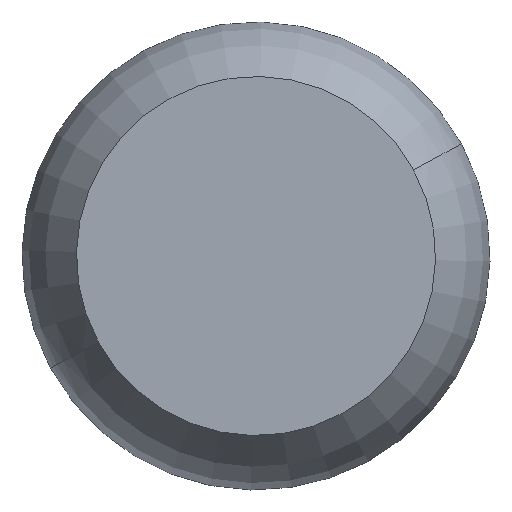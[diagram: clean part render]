
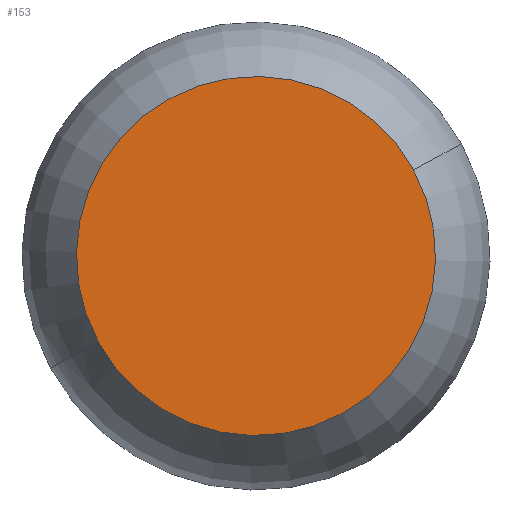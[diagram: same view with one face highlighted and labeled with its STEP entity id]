
A CAD part, front view. The second image highlights one B-rep face of the part: STEP entity #153.
In plain terms, the highlighted planar face has unit normal (0, -1, 0).
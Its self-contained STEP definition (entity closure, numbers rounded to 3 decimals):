
#66=CARTESIAN_POINT('Axis2P3D Location',(0.,0.,0.)) ;
#70=CARTESIAN_POINT('Vertex',(94.779,0.,51.778)) ;
#72=CARTESIAN_POINT('Vertex',(-94.779,0.,-51.778)) ;
#127=CARTESIAN_POINT('Axis2P3D Location',(0.,0.,0.)) ;
#144=CARTESIAN_POINT('Axis2P3D Location',(0.,0.,0.)) ;
#67=DIRECTION('Axis2P3D Direction',(0.,-1.,0.)) ;
#128=DIRECTION('Axis2P3D Direction',(0.,-1.,0.)) ;
#145=DIRECTION('Axis2P3D Direction',(0.,-1.,0.)) ;
#146=DIRECTION('Axis2P3D XDirection',(1.,0.,0.)) ;
#68=AXIS2_PLACEMENT_3D('Circle Axis2P3D',#66,#67,$) ;
#129=AXIS2_PLACEMENT_3D('Circle Axis2P3D',#127,#128,$) ;
#147=AXIS2_PLACEMENT_3D('Plane Axis2P3D',#144,#145,#146) ;
#150=ORIENTED_EDGE('',*,*,#74,.T.) ;
#151=ORIENTED_EDGE('',*,*,#131,.T.) ;
#153=ADVANCED_FACE('PartBody',(#152),#148,.T.) ;
#69=CIRCLE('generated circle',#68,108.) ;
#130=CIRCLE('generated circle',#129,108.) ;
#74=EDGE_CURVE('',#71,#73,#69,.T.) ;
#131=EDGE_CURVE('',#73,#71,#130,.T.) ;
#149=EDGE_LOOP('',(#150,#151)) ;
#152=FACE_OUTER_BOUND('',#149,.T.) ;
#148=PLANE('',#147) ;
#71=VERTEX_POINT('',#70) ;
#73=VERTEX_POINT('',#72) ;
